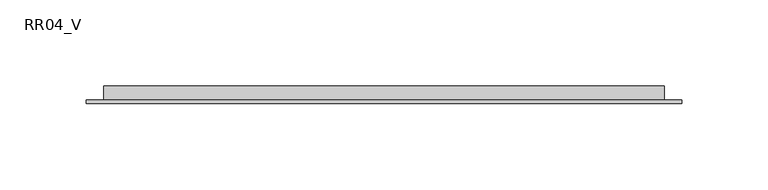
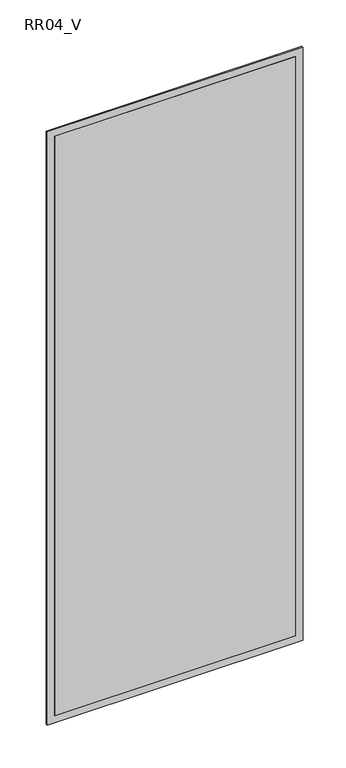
"""IFC4 building model written with IfcOpenShell, lengths in millimetres: air terminal geometry, ZYR_03.06.04.01 Reixa Paret Retorn : RR04_V."""

from ifc_helpers import new_model, si_unit, frame, origin, place, context, project, spatial, polyline, outline, extrude, source, transform, mapped, element, save


def rr04_v_38478ff6(model_context):
    return source(origin(), model_context, "Body", "SweptSolid", [
        extrude(outline(polyline([(162.5, 0.0), (-162.5, 0.0), (-162.5, 10.0), (162.5, 10.0), (162.5, 0.0)])), frame((0.0, 0.0, -412.5), z_axis=(0.0, 0.0, 1.0), x_axis=(1.0, 0.0, 0.0)), (0.0, 0.0, 1.0), 825.0),
        extrude(outline(polyline([(422.5, 172.5), (422.5, -172.5), (-422.5, -172.5), (-422.5, 172.5), (422.5, 172.5)]), holes=[polyline([(412.5, 162.5), (-412.5, 162.5), (-412.5, -162.5), (412.5, -162.5), (412.5, 162.5)])]), frame((0.0, 0.0, 0.0), z_axis=(0.0, 1.0, 0.0), x_axis=(0.0, 0.0, 1.0)), (0.0, 0.0, 1.0), 2.0),
    ])


if __name__ == "__main__":
    model = new_model("IFC4")
    model_context = context("Model", 3, world=origin())
    ifc_project = project(units=[si_unit("LENGTHUNIT", "METRE", prefix="MILLI")], contexts=[model_context])
    site = spatial("IfcSite", under=ifc_project)
    building = spatial("IfcBuilding", under=site)
    placement = place(None, origin())
    rr04_v_shape = rr04_v_38478ff6(model_context)
    element("IfcAirTerminal", 1, ObjectType="ZYR_03.06.04.01 Reixa Paret Retorn : RR04_V", at=placement, inside=building, context=model_context, shape_type="MappedRepresentation", body=[
        mapped(rr04_v_shape, transform((0.0, 0.0, 0.0), x_axis=(1.0, 0.0, 0.0), y_axis=(0.0, 1.0, 0.0), z_axis=(0.0, 0.0, 1.0))),
    ])
    save(model, "model.ifc")
